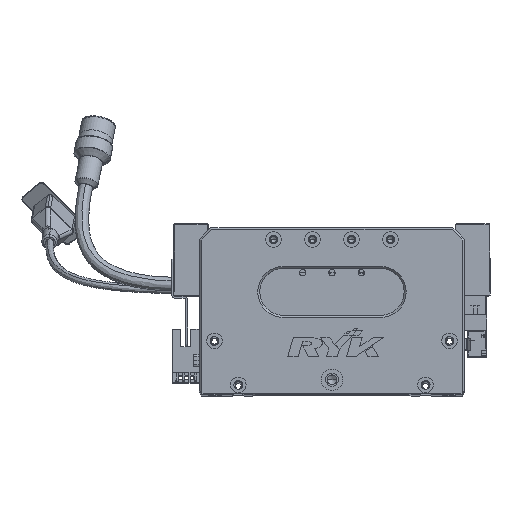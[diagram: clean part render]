
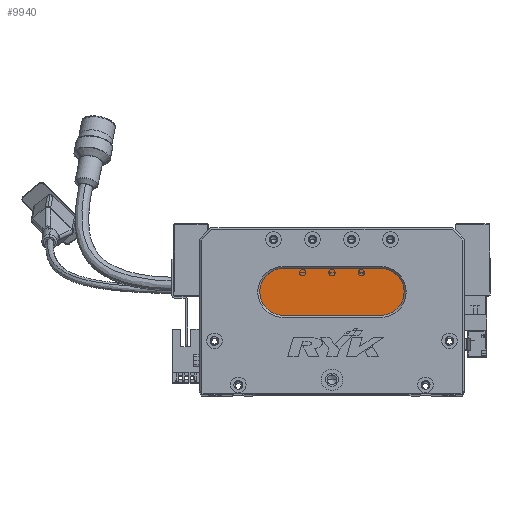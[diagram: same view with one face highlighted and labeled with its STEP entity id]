
A CAD part, top view. The second image highlights one B-rep face of the part: STEP entity #9940.
In plain terms, the highlighted planar face has unit normal (0, 0, 1) as drawn and (0, 0, -1) by its records, which use the part's own axes.
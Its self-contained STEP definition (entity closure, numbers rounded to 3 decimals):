
#1825 = CIRCLE ( 'NONE', #39638, 12. ) ;
#2008 = VERTEX_POINT ( 'NONE', #34225 ) ;
#2433 = VERTEX_POINT ( 'NONE', #27305 ) ;
#3693 = ORIENTED_EDGE ( 'NONE', *, *, #69635, .T. ) ;
#4724 = AXIS2_PLACEMENT_3D ( 'NONE', #11346, #17048, #28820 ) ;
#7571 = DIRECTION ( 'NONE',  ( 0., 0., -1. ) ) ;
#8598 = ORIENTED_EDGE ( 'NONE', *, *, #27868, .T. ) ;
#9940 = ADVANCED_FACE ( 'NONE', ( #45637 ), #33711, .T. ) ;
#11346 = CARTESIAN_POINT ( 'NONE',  ( 93., 52., 13. ) ) ;
#11570 = EDGE_CURVE ( 'NONE', #2433, #43929, #37548, .T. ) ;
#13779 = CARTESIAN_POINT ( 'NONE',  ( 93., 40., 13. ) ) ;
#17048 = DIRECTION ( 'NONE',  ( 0., 0., -1. ) ) ;
#18124 = VECTOR ( 'NONE', #40551, 1000. ) ;
#22003 = AXIS2_PLACEMENT_3D ( 'NONE', #25922, #53745, #64579 ) ;
#25922 = CARTESIAN_POINT ( 'NONE',  ( 43., 52., 13. ) ) ;
#27260 = LINE ( 'NONE', #59266, #63348 ) ;
#27305 = CARTESIAN_POINT ( 'NONE',  ( 93., 64., 13. ) ) ;
#27868 = EDGE_CURVE ( 'NONE', #65758, #2008, #42127, .T. ) ;
#28820 = DIRECTION ( 'NONE',  ( -1., 0., 0. ) ) ;
#28962 = DIRECTION ( 'NONE',  ( -1., 0., 0. ) ) ;
#29056 = CARTESIAN_POINT ( 'NONE',  ( 31., 52., 13. ) ) ;
#29257 = CARTESIAN_POINT ( 'NONE',  ( 93., 40., 13. ) ) ;
#31497 = EDGE_CURVE ( 'NONE', #43929, #72272, #68316, .T. ) ;
#33512 = DIRECTION ( 'NONE',  ( -1., 0., 0. ) ) ;
#33711 = PLANE ( 'NONE',  #4724 ) ;
#34225 = CARTESIAN_POINT ( 'NONE',  ( 43., 64., 13. ) ) ;
#37548 = CIRCLE ( 'NONE', #48544, 12. ) ;
#39638 = AXIS2_PLACEMENT_3D ( 'NONE', #43859, #61392, #33512 ) ;
#40551 = DIRECTION ( 'NONE',  ( -1., 0., 0. ) ) ;
#42127 = CIRCLE ( 'NONE', #22003, 12. ) ;
#43859 = CARTESIAN_POINT ( 'NONE',  ( 43., 52., 13. ) ) ;
#43929 = VERTEX_POINT ( 'NONE', #13779 ) ;
#45637 = FACE_OUTER_BOUND ( 'NONE', #49167, .T. ) ;
#46898 = CARTESIAN_POINT ( 'NONE',  ( 93., 52., 13. ) ) ;
#47426 = DIRECTION ( 'NONE',  ( 1., 0., 0. ) ) ;
#48544 = AXIS2_PLACEMENT_3D ( 'NONE', #46898, #7571, #28962 ) ;
#49167 = EDGE_LOOP ( 'NONE', ( #55925, #60933, #68859, #8598, #3693 ) ) ;
#53745 = DIRECTION ( 'NONE',  ( 0., 0., -1. ) ) ;
#55925 = ORIENTED_EDGE ( 'NONE', *, *, #11570, .T. ) ;
#59266 = CARTESIAN_POINT ( 'NONE',  ( 93., 64., 13. ) ) ;
#60933 = ORIENTED_EDGE ( 'NONE', *, *, #31497, .T. ) ;
#61392 = DIRECTION ( 'NONE',  ( 0., 0., -1. ) ) ;
#62231 = CARTESIAN_POINT ( 'NONE',  ( 43., 40., 13. ) ) ;
#62849 = EDGE_CURVE ( 'NONE', #72272, #65758, #1825, .T. ) ;
#63348 = VECTOR ( 'NONE', #47426, 1000. ) ;
#64579 = DIRECTION ( 'NONE',  ( -1., 0., 0. ) ) ;
#65758 = VERTEX_POINT ( 'NONE', #29056 ) ;
#68316 = LINE ( 'NONE', #29257, #18124 ) ;
#68859 = ORIENTED_EDGE ( 'NONE', *, *, #62849, .T. ) ;
#69635 = EDGE_CURVE ( 'NONE', #2008, #2433, #27260, .T. ) ;
#72272 = VERTEX_POINT ( 'NONE', #62231 ) ;
